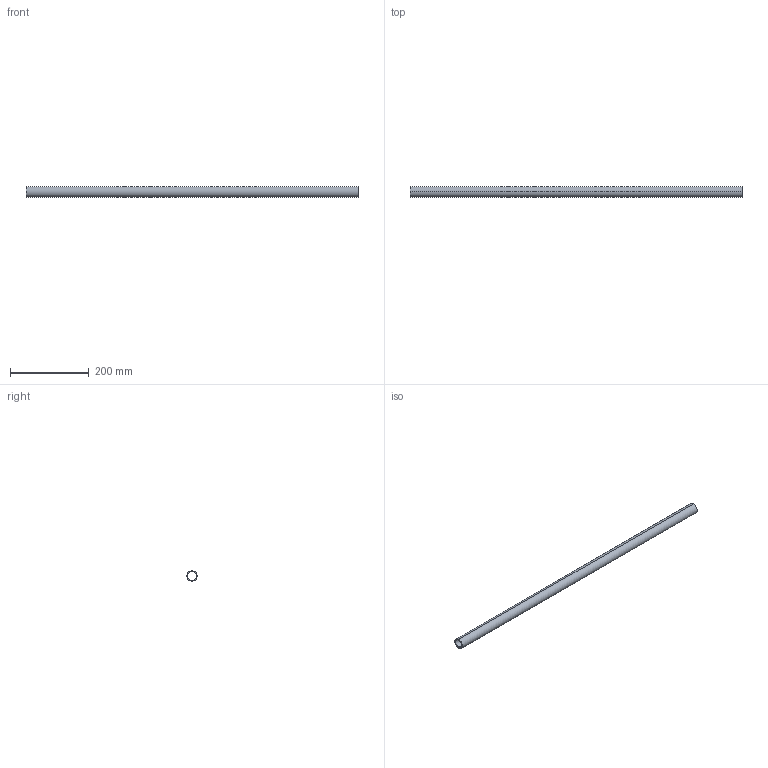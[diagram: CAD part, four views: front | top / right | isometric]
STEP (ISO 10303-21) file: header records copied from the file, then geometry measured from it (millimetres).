
FILE_DESCRIPTION (( 'STEP AP214' ), '1' );
FILE_NAME ('CCJ029-REP.316 - LISSE PLATEFORME INFERIEURE C3-C4.STEP', '2024-01-31T09:59:55', ( '' ), ( '' ), 'SwSTEP 2.0', 'SolidWorks 2021', '' );
FILE_SCHEMA (( 'AUTOMOTIVE_DESIGN' ));
Length unit declared in the file: millimetre
Products named in the file (1): CCJ029-REP.316 - LISSE PLATEFORME INFERIEURE C3-C4
Bounding box: 845 x 26.9 x 26.9 mm (x, y, z)
Volume: 150199.9 mm3; surface area: 130964.1 mm2
Topology: 1 solids, 1 shells, 6 faces, 12 edges, 8 vertices
Faces by surface type: cylinder 4, plane 2
Entity records: 202 total; most frequent: DIRECTION 34, CARTESIAN_POINT 27, ORIENTED_EDGE 24, AXIS2_PLACEMENT_3D 15, EDGE_CURVE 12, CIRCLE 8, VERTEX_POINT 8, EDGE_LOOP 8
